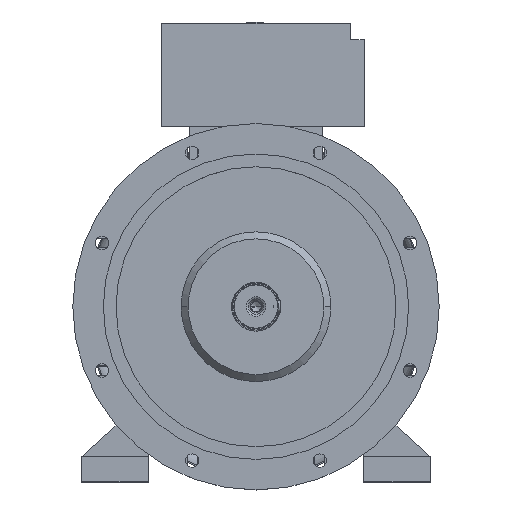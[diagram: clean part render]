
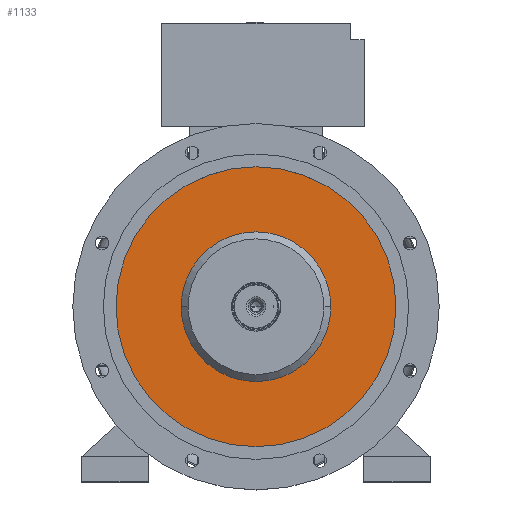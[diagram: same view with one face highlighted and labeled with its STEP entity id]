
A CAD part, top view. The second image highlights one B-rep face of the part: STEP entity #1133.
In plain terms, the highlighted planar face has unit normal (0, 0, 1).
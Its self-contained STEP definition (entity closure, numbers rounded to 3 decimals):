
#490 = ORIENTED_EDGE ( 'NONE', *, *, #22109, .T. ) ;
#1133 = ADVANCED_FACE ( 'NONE', ( #12231, #11908 ), #7238, .T. ) ;
#1270 = VERTEX_POINT ( 'NONE', #11540 ) ;
#1502 = CARTESIAN_POINT ( 'NONE',  ( -134.8, 0., 455.4 ) ) ;
#1967 = CIRCLE ( 'NONE', #12580, 134.8 ) ;
#2302 = EDGE_LOOP ( 'NONE', ( #490, #21116 ) ) ;
#3419 = AXIS2_PLACEMENT_3D ( 'NONE', #17657, #9220, #7297 ) ;
#4186 = DIRECTION ( 'NONE',  ( -1., 0., 0. ) ) ;
#4501 = CIRCLE ( 'NONE', #24700, 134.8 ) ;
#6028 = AXIS2_PLACEMENT_3D ( 'NONE', #20886, #6453, #4186 ) ;
#6453 = DIRECTION ( 'NONE',  ( 0., 0., 1. ) ) ;
#7238 = PLANE ( 'NONE',  #25627 ) ;
#7297 = DIRECTION ( 'NONE',  ( -1., 0., 0. ) ) ;
#7792 = EDGE_CURVE ( 'NONE', #15407, #1270, #4501, .T. ) ;
#8853 = CIRCLE ( 'NONE', #3419, 252.083 ) ;
#9165 = CARTESIAN_POINT ( 'NONE',  ( 0., 252.083, 455.4 ) ) ;
#9220 = DIRECTION ( 'NONE',  ( 0., 0., 1. ) ) ;
#11113 = DIRECTION ( 'NONE',  ( 0., 0., -1. ) ) ;
#11382 = VERTEX_POINT ( 'NONE', #23654 ) ;
#11452 = DIRECTION ( 'NONE',  ( 1., 0., 0. ) ) ;
#11540 = CARTESIAN_POINT ( 'NONE',  ( 134.8, 0., 455.4 ) ) ;
#11908 = FACE_OUTER_BOUND ( 'NONE', #2302, .T. ) ;
#12137 = CARTESIAN_POINT ( 'NONE',  ( -252.083, 0., 455.4 ) ) ;
#12231 = FACE_BOUND ( 'NONE', #14434, .T. ) ;
#12533 = EDGE_CURVE ( 'NONE', #11382, #22181, #22514, .T. ) ;
#12580 = AXIS2_PLACEMENT_3D ( 'NONE', #17087, #11113, #23154 ) ;
#13587 = ORIENTED_EDGE ( 'NONE', *, *, #7792, .T. ) ;
#14434 = EDGE_LOOP ( 'NONE', ( #13587, #21111 ) ) ;
#14552 = DIRECTION ( 'NONE',  ( -1., 0., 0. ) ) ;
#15407 = VERTEX_POINT ( 'NONE', #1502 ) ;
#16562 = DIRECTION ( 'NONE',  ( 0., 0., -1. ) ) ;
#17087 = CARTESIAN_POINT ( 'NONE',  ( 0., 0., 455.4 ) ) ;
#17657 = CARTESIAN_POINT ( 'NONE',  ( 0., 0., 455.4 ) ) ;
#19030 = EDGE_CURVE ( 'NONE', #1270, #15407, #1967, .T. ) ;
#20886 = CARTESIAN_POINT ( 'NONE',  ( 0., 0., 455.4 ) ) ;
#21111 = ORIENTED_EDGE ( 'NONE', *, *, #19030, .T. ) ;
#21116 = ORIENTED_EDGE ( 'NONE', *, *, #12533, .T. ) ;
#22109 = EDGE_CURVE ( 'NONE', #22181, #11382, #8853, .T. ) ;
#22181 = VERTEX_POINT ( 'NONE', #12137 ) ;
#22514 = CIRCLE ( 'NONE', #6028, 252.083 ) ;
#22803 = CARTESIAN_POINT ( 'NONE',  ( 0., 0., 455.4 ) ) ;
#23154 = DIRECTION ( 'NONE',  ( -1., 0., 0. ) ) ;
#23654 = CARTESIAN_POINT ( 'NONE',  ( 252.083, 0., 455.4 ) ) ;
#23665 = DIRECTION ( 'NONE',  ( 0., 0., 1. ) ) ;
#24700 = AXIS2_PLACEMENT_3D ( 'NONE', #22803, #16562, #14552 ) ;
#25627 = AXIS2_PLACEMENT_3D ( 'NONE', #9165, #23665, #11452 ) ;
